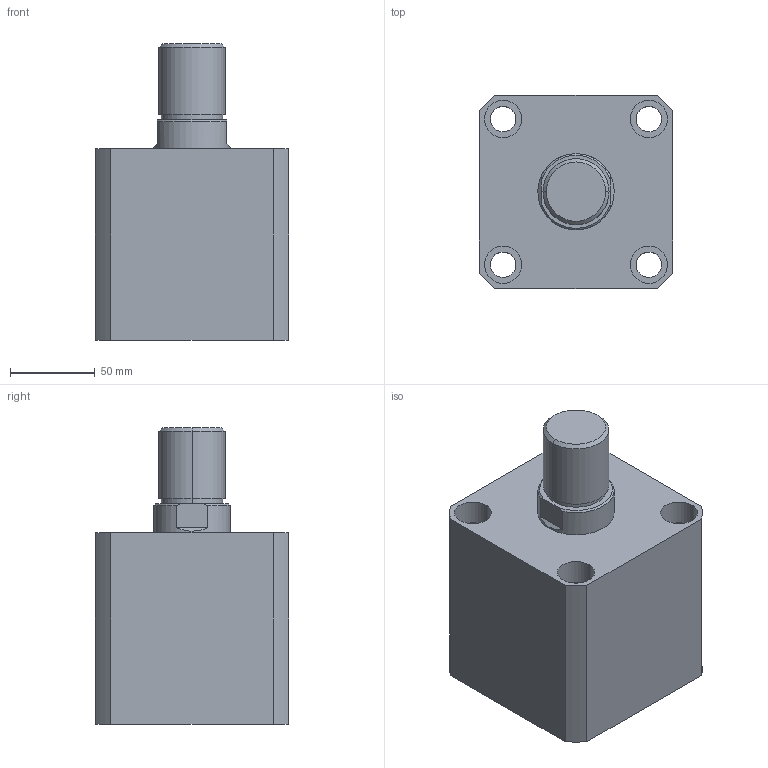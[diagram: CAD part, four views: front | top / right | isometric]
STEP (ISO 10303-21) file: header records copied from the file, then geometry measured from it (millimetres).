
FILE_DESCRIPTION (( 'STEP AP203' ), '1' );
FILE_NAME ('HTB-SDMB80-35W.STEP', '2019-10-09T06:02:50', ( '微软用户' ), ( '微软中国' ), 'SwSTEP 2.0', 'SolidWorks 2012', '' );
FILE_SCHEMA (( 'CONFIG_CONTROL_DESIGN' ));
Length unit declared in the file: millimetre
Products named in the file (3): HTB-SDMB80-35掛极; HTB-SDMB80-35W活塞杆; HTB-SDMB80-35W
Assembly tree (2 placements, depth 2):
  HTB-SDMB80-35W
    HTB-SDMB80-35掛极
    HTB-SDMB80-35W活塞杆
Bounding box: 114 x 114 x 175 mm (x, y, z)
Volume: 1304688.8 mm3; surface area: 161045.4 mm2
Topology: 2 solids, 2 shells, 141 faces, 337 edges, 222 vertices
Faces by surface type: plane 67, cylinder 48, bspline 16, torus 6, cone 4
Entity records: 5180 total; most frequent: CARTESIAN_POINT 1597, ORIENTED_EDGE 674, DIRECTION 669, EDGE_CURVE 337, AXIS2_PLACEMENT_3D 242, VERTEX_POINT 222, VECTOR 185, LINE 185
